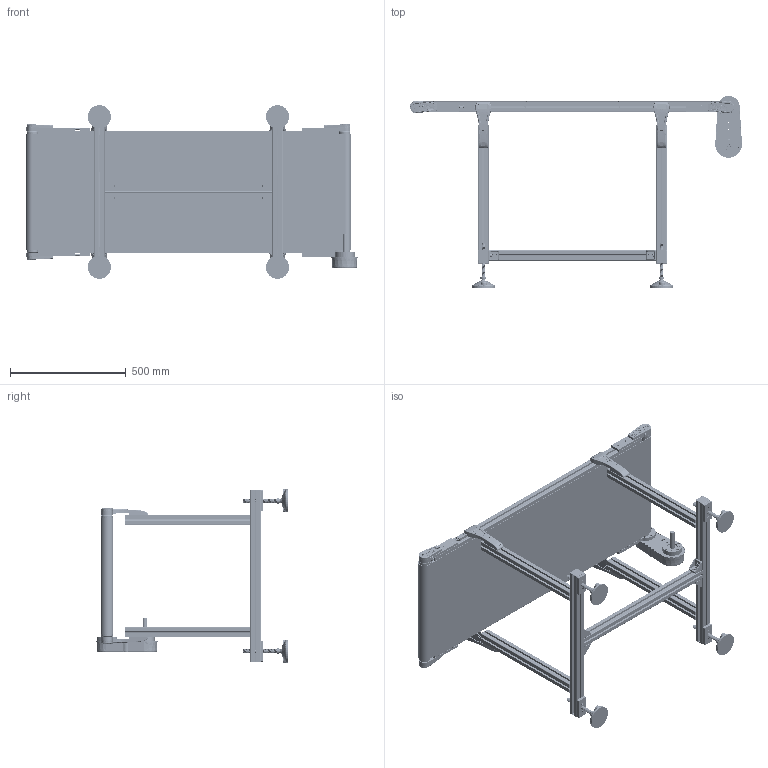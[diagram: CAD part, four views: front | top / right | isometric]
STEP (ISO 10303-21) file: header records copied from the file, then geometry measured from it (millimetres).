
FILE_DESCRIPTION (( 'STEP AP203' ), '1' );
FILE_NAME ('NASTRO_RETTILINEO_TAPPETO.step', '2026-04-27T09:15:49', ( 'Utente Windows' ), ( '' ), 'SwSTEP 2.0', 'SolidWorks 2024', '' );
FILE_SCHEMA (( 'CONFIG_CONTROL_DESIGN' ));
Length unit declared in the file: millimetre
Products named in the file (60): 2010.000.068; LAMIERA_STANDARD; 084.807.002_084.807.002; TELAIO_50_STANDARD_Default<A macchina>; 084.811.004; 084.201.012; BLOCCO_PERNO_50_RINVIO; TAPPETO_STANDARD; 084.301.000 VITI ALUSIC_084.301.003; TRAVERSA_50_Default<A macchina>; 084.802.008; 084.303.001; BLOCCO_TRAINO_50_STANDARD; GAMBE_D50_Default<A macchina>; 084.802.066_Default<A macchina>; 084.201.012-1; FLANGIA_GAMBA_50; 084.302.000 DADI ALUSIC 13x13-1_084.302.007; BLOCCO_RINVIO_50_STANDARD; VITI TSEI UNI 5933_M4x12 UNI 5933; 084.821.003; VITI TSEI UNI 5933 INOX_0412UNI5933A2; 084.802.071; 084.809.001; CHIAVETTE_A 8x7x25 UNI 6604-69; CHIAVETTE_A 5x5x50 UNI 6604-69; 084.821.002; BLOCCO_TRAINO_50_RINVIATO_CINGHIA_WA20_SX_MOTORE A DESTRA; 084.405.001; 084.302.000 DADI ALUSIC 13x13-1_084.302.004; 084.809.010; 084.402.005; ANGOLARE_43; 084.305.003-1; 084.813.010; 084.802.021; CHIAVETTE_A 5x5x20 UNI 6604-69; 084.810.001; 084.807.001_084.807.001; PIEDE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
Assembly tree (141 placements, depth 4):
  NASTRO_RETTILINEO_TAPPETO
    TAPPETO_STANDARD
    TELAIO_50_STANDARD_Default<A macchina>
    LAMIERA_STANDARD
    RULLO_50_Default<A macchina>  x2
    BLOCCO_PERNO_50_RINVIO  x3
      084.811.004
      084.810.001
    BLOCCO_TRAINO_50_STANDARD
      084.807.002_084.807.002
      084.802.017_084.802.017
      084.301.000 VITI ALUSIC_084.301.003  x2
      084.302.000 DADI ALUSIC 13x13-1_084.302.004  x2
      VITI TSEI UNI 5933_M4x12 UNI 5933  x4
      084.802.071
      VITI TSEI UNI 5933 INOX_0412UNI5933A2  x2
    BLOCCO_PERNO_50_RINVIATO
      084.810.001
      084.813.001
      CHIAVETTE_A 8x7x25 UNI 6604-69
      CHIAVETTE_A 5x5x20 UNI 6604-69
    BLOCCO_TRAINO_50_RINVIATO_CINGHIA_WA20_SX_MOTORE A DESTRA
      084.802.034_084.802.034
      084.807.001_084.807.001
      084.809.010
      084.813.010
      084.802.021
      084.809.001
      084.301.000 VITI ALUSIC_084.301.003  x2
      084.302.000 DADI ALUSIC 13x13_084.302.004  x2
      CHIAVETTE_A 5x5x50 UNI 6604-69
      084.821.002  x2
      084.821.003
      VITI TCEI UNI 5931_M4x20 UNI 5931  x2
      084.802.066_Default<A macchina>
      084.832.001
    BLOCCO_RINVIO_50_STANDARD  x2
      084.807.002_084.807.002
      084.802.017_084.802.017
      084.802.008
      084.301.000 VITI ALUSIC_084.301.003
      084.302.000 DADI ALUSIC 13x13_084.302.004
      VITI TSEI UNI 5933_M4x10 UNI 5933
      084.802.071
    GAMBE_D50_Default<A macchina>  x2
    FLANGIA_GAMBA_50
      084.302.000 DADI ALUSIC 13x13-1_084.302.004  x4
      RONDELLE UNI 6592_8.4x17 UNI 6592  x3
      084.301.000 VITI ALUSIC_084.301.003  x4
      2010.000.068
        2010.000.068_L
        2010.000.069
        2010.000.070
    FLANGIA_GAMBA_50  x3
      084.302.000 DADI ALUSIC 13x13-1_084.302.004
      RONDELLE UNI 6592_8.4x17 UNI 6592
      084.301.000 VITI ALUSIC_084.301.003
      2010.000.068
        2010.000.068_L
        2010.000.069
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Bounding box: 1434.75 x 829.85 x 749.87 mm (x, y, z)
Volume: 12018780 mm3; surface area: 10837240 mm2
Topology: 250 solids, 253 shells, 13860 faces, 36522 edges, 23358 vertices
Faces by surface type: plane 5500, cylinder 4530, bspline 1585, cone 1152, torus 986, sphere 107
Entity records: 215901 total; most frequent: CARTESIAN_POINT 77571, ORIENTED_EDGE 28592, DIRECTION 25733, EDGE_CURVE 14296, VERTEX_POINT 9237, AXIS2_PLACEMENT_3D 9082, VECTOR 7569, LINE 7569
